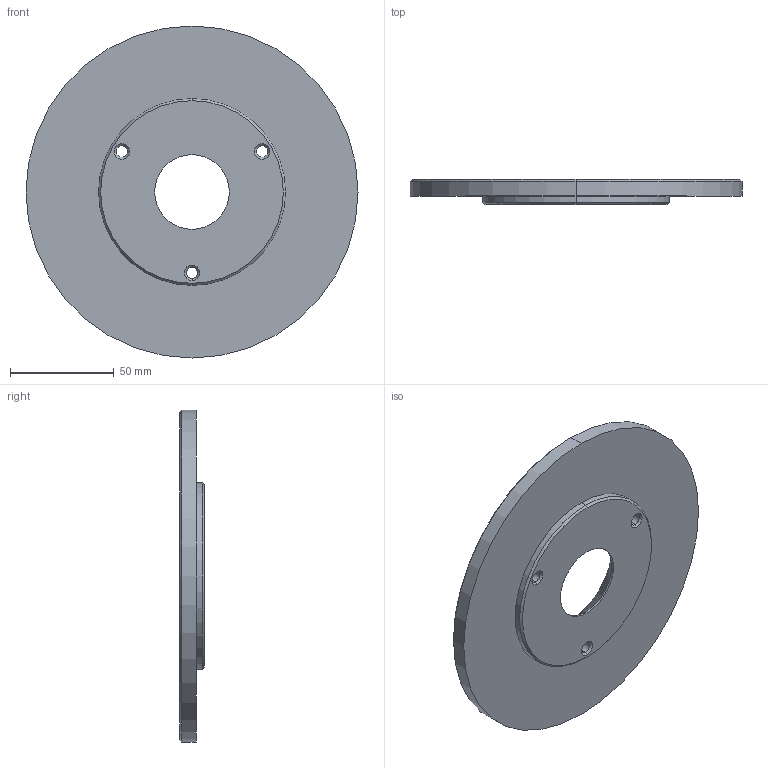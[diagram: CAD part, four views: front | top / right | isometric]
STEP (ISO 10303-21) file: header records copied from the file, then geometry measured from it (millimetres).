
FILE_DESCRIPTION (( 'STEP AP214' ), '1' );
FILE_NAME ('BR1000-160x12.STEP', '2020-02-05T12:23:51', ( 'August' ), ( '' ), 'SwSTEP 2.0', 'SolidWorks 2018', '' );
FILE_SCHEMA (( 'AUTOMOTIVE_DESIGN' ));
Length unit declared in the file: millimetre
Products named in the file (1): BR1000-160x12
Bounding box: 160 x 12 x 160 mm (x, y, z)
Volume: 163745.3 mm3; surface area: 44263.9 mm2
Topology: 1 solids, 1 shells, 42 faces, 90 edges, 54 vertices
Faces by surface type: cone 18, cylinder 18, plane 6
Entity records: 1194 total; most frequent: DIRECTION 230, CARTESIAN_POINT 187, ORIENTED_EDGE 180, AXIS2_PLACEMENT_3D 97, EDGE_CURVE 90, VERTEX_POINT 54, CIRCLE 54, EDGE_LOOP 54
